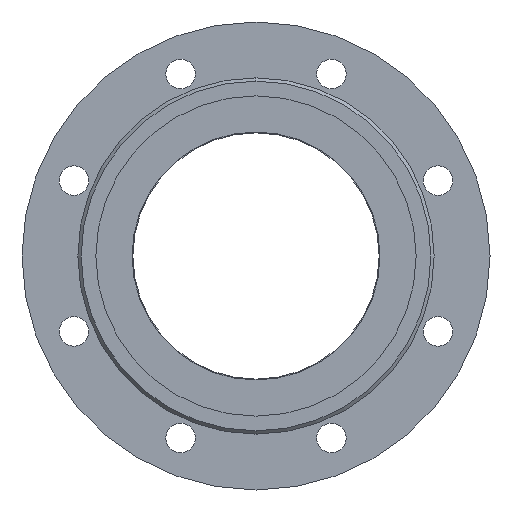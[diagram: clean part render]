
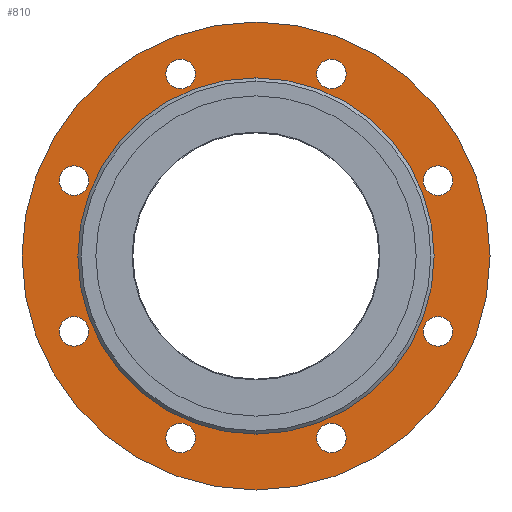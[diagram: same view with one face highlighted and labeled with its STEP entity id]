
A CAD part, left-side view. The second image highlights one B-rep face of the part: STEP entity #810.
In plain terms, the highlighted planar face has unit normal (-1, 0, 0).
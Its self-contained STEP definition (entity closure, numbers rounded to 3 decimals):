
#810=ADVANCED_FACE('',(#1518,#1519,#1520,#1521,#1522,#1523,#1524,#1525,#1526,#1527),#1528,.F.);
#1518=FACE_BOUND('',#2311,.T.);
#1519=FACE_BOUND('',#2312,.T.);
#1520=FACE_BOUND('',#2313,.T.);
#1521=FACE_BOUND('',#2314,.T.);
#1522=FACE_BOUND('',#2315,.T.);
#1523=FACE_BOUND('',#2316,.T.);
#1524=FACE_BOUND('',#2317,.T.);
#1525=FACE_BOUND('',#2318,.T.);
#1526=FACE_BOUND('',#2319,.T.);
#1527=FACE_OUTER_BOUND('',#2320,.T.);
#1528=PLANE('',#2321);
#2311=EDGE_LOOP('',(#3726,#3727));
#2312=EDGE_LOOP('',(#3728,#3729));
#2313=EDGE_LOOP('',(#3730,#3731));
#2314=EDGE_LOOP('',(#3732,#3733));
#2315=EDGE_LOOP('',(#3734,#3735));
#2316=EDGE_LOOP('',(#3736,#3737));
#2317=EDGE_LOOP('',(#3738,#3739));
#2318=EDGE_LOOP('',(#3740,#3741));
#2319=EDGE_LOOP('',(#3742,#3743));
#2320=EDGE_LOOP('',(#3744,#3745));
#2321=AXIS2_PLACEMENT_3D('',#3746,#3747,#3748);
#3726=ORIENTED_EDGE('',*,*,#4747,.T.);
#3727=ORIENTED_EDGE('',*,*,#4671,.T.);
#3728=ORIENTED_EDGE('',*,*,#4772,.T.);
#3729=ORIENTED_EDGE('',*,*,#4276,.T.);
#3730=ORIENTED_EDGE('',*,*,#4773,.T.);
#3731=ORIENTED_EDGE('',*,*,#4511,.T.);
#3732=ORIENTED_EDGE('',*,*,#4774,.T.);
#3733=ORIENTED_EDGE('',*,*,#4440,.T.);
#3734=ORIENTED_EDGE('',*,*,#4775,.T.);
#3735=ORIENTED_EDGE('',*,*,#4562,.T.);
#3736=ORIENTED_EDGE('',*,*,#4776,.T.);
#3737=ORIENTED_EDGE('',*,*,#4578,.T.);
#3738=ORIENTED_EDGE('',*,*,#4571,.T.);
#3739=ORIENTED_EDGE('',*,*,#4600,.T.);
#3740=ORIENTED_EDGE('',*,*,#4649,.T.);
#3741=ORIENTED_EDGE('',*,*,#4241,.T.);
#3742=ORIENTED_EDGE('',*,*,#4777,.T.);
#3743=ORIENTED_EDGE('',*,*,#4249,.T.);
#3744=ORIENTED_EDGE('',*,*,#4281,.F.);
#3745=ORIENTED_EDGE('',*,*,#4462,.F.);
#3746=CARTESIAN_POINT('',(5.0,0.0,0.));
#3747=DIRECTION('',(1.0,0.0,0.));
#3748=DIRECTION('',(0.,0.0,-1.0));
#4241=EDGE_CURVE('',#4937,#4935,#4938,.T.);
#4249=EDGE_CURVE('',#4951,#4949,#4952,.T.);
#4276=EDGE_CURVE('',#5000,#4998,#5001,.T.);
#4281=EDGE_CURVE('',#5006,#5009,#5010,.T.);
#4440=EDGE_CURVE('',#5270,#5268,#5271,.T.);
#4462=EDGE_CURVE('',#5009,#5006,#5305,.T.);
#4511=EDGE_CURVE('',#5377,#5375,#5378,.T.);
#4562=EDGE_CURVE('',#5452,#5450,#5453,.T.);
#4571=EDGE_CURVE('',#5460,#5462,#5464,.T.);
#4578=EDGE_CURVE('',#5472,#5470,#5473,.T.);
#4600=EDGE_CURVE('',#5462,#5460,#5501,.T.);
#4649=EDGE_CURVE('',#4935,#4937,#5566,.T.);
#4671=EDGE_CURVE('',#5593,#5595,#5597,.T.);
#4747=EDGE_CURVE('',#5595,#5593,#5696,.T.);
#4772=EDGE_CURVE('',#4998,#5000,#5722,.T.);
#4773=EDGE_CURVE('',#5375,#5377,#5723,.T.);
#4774=EDGE_CURVE('',#5268,#5270,#5724,.T.);
#4775=EDGE_CURVE('',#5450,#5452,#5725,.T.);
#4776=EDGE_CURVE('',#5470,#5472,#5726,.T.);
#4777=EDGE_CURVE('',#4949,#4951,#5727,.T.);
#4935=VERTEX_POINT('',#5906);
#4937=VERTEX_POINT('',#5909);
#4938=CIRCLE('',#5910,9.0);
#4949=VERTEX_POINT('',#5922);
#4951=VERTEX_POINT('',#5925);
#4952=CIRCLE('',#5926,9.0);
#4998=VERTEX_POINT('',#5977);
#5000=VERTEX_POINT('',#5980);
#5001=CIRCLE('',#5981,9.0);
#5006=VERTEX_POINT('',#5987);
#5009=VERTEX_POINT('',#5991);
#5010=CIRCLE('',#5992,142.5);
#5268=VERTEX_POINT('',#6309);
#5270=VERTEX_POINT('',#6312);
#5271=CIRCLE('',#6313,9.0);
#5305=CIRCLE('',#6360,142.5);
#5375=VERTEX_POINT('',#6453);
#5377=VERTEX_POINT('',#6456);
#5378=CIRCLE('',#6457,9.0);
#5450=VERTEX_POINT('',#6542);
#5452=VERTEX_POINT('',#6545);
#5453=CIRCLE('',#6546,9.0);
#5460=VERTEX_POINT('',#6556);
#5462=VERTEX_POINT('',#6559);
#5464=CIRCLE('',#6562,9.0);
#5470=VERTEX_POINT('',#6570);
#5472=VERTEX_POINT('',#6573);
#5473=CIRCLE('',#6574,9.0);
#5501=CIRCLE('',#6610,9.0);
#5566=CIRCLE('',#6686,9.0);
#5593=VERTEX_POINT('',#6720);
#5595=VERTEX_POINT('',#6723);
#5597=CIRCLE('',#6726,75.0);
#5696=CIRCLE('',#6848,75.0);
#5722=CIRCLE('',#6880,9.0);
#5723=CIRCLE('',#6881,9.0);
#5724=CIRCLE('',#6882,9.0);
#5725=CIRCLE('',#6883,9.0);
#5726=CIRCLE('',#6884,9.0);
#5727=CIRCLE('',#6885,9.0);
#5906=CARTESIAN_POINT('',(5.0,-110.866,-54.922));
#5909=CARTESIAN_POINT('',(5.0,-110.866,-36.922));
#5910=AXIS2_PLACEMENT_3D('',#7066,#7067,#7068);
#5922=CARTESIAN_POINT('',(5.0,-45.922,-119.866));
#5925=CARTESIAN_POINT('',(5.,-45.922,-101.866));
#5926=AXIS2_PLACEMENT_3D('',#7080,#7081,#7082);
#5977=CARTESIAN_POINT('',(5.0,110.866,-54.922));
#5980=CARTESIAN_POINT('',(5.0,110.866,-36.922));
#5981=AXIS2_PLACEMENT_3D('',#7134,#7135,#7136);
#5987=CARTESIAN_POINT('',(5.,0.0,-142.5));
#5991=CARTESIAN_POINT('',(5.,0.,142.5));
#5992=AXIS2_PLACEMENT_3D('',#7142,#7143,#7144);
#6309=CARTESIAN_POINT('',(5.0,-110.866,36.922));
#6312=CARTESIAN_POINT('',(5.0,-110.866,54.922));
#6313=AXIS2_PLACEMENT_3D('',#7379,#7380,#7381);
#6360=AXIS2_PLACEMENT_3D('',#7404,#7405,#7406);
#6453=CARTESIAN_POINT('',(5.0,45.922,-119.866));
#6456=CARTESIAN_POINT('',(5.,45.922,-101.866));
#6457=AXIS2_PLACEMENT_3D('',#7461,#7462,#7463);
#6542=CARTESIAN_POINT('',(5.0,-45.922,101.866));
#6545=CARTESIAN_POINT('',(5.,-45.922,119.866));
#6546=AXIS2_PLACEMENT_3D('',#7553,#7554,#7555);
#6556=CARTESIAN_POINT('',(5.0,45.922,101.866));
#6559=CARTESIAN_POINT('',(5.,45.922,119.866));
#6562=AXIS2_PLACEMENT_3D('',#7561,#7562,#7563);
#6570=CARTESIAN_POINT('',(5.0,110.866,36.922));
#6573=CARTESIAN_POINT('',(5.0,110.866,54.922));
#6574=AXIS2_PLACEMENT_3D('',#7567,#7568,#7569);
#6610=AXIS2_PLACEMENT_3D('',#7593,#7594,#7595);
#6686=AXIS2_PLACEMENT_3D('',#7661,#7662,#7663);
#6720=CARTESIAN_POINT('',(5.0,0.,-75.0));
#6723=CARTESIAN_POINT('',(5.0,0.,75.0));
#6726=AXIS2_PLACEMENT_3D('',#7688,#7689,#7690);
#6848=AXIS2_PLACEMENT_3D('',#7786,#7787,#7788);
#6880=AXIS2_PLACEMENT_3D('',#7807,#7808,#7809);
#6881=AXIS2_PLACEMENT_3D('',#7810,#7811,#7812);
#6882=AXIS2_PLACEMENT_3D('',#7813,#7814,#7815);
#6883=AXIS2_PLACEMENT_3D('',#7816,#7817,#7818);
#6884=AXIS2_PLACEMENT_3D('',#7819,#7820,#7821);
#6885=AXIS2_PLACEMENT_3D('',#7822,#7823,#7824);
#7066=CARTESIAN_POINT('',(5.0,-110.866,-45.922));
#7067=DIRECTION('',(1.0,0.0,0.));
#7068=DIRECTION('',(0.,0.0,-1.0));
#7080=CARTESIAN_POINT('',(5.,-45.922,-110.866));
#7081=DIRECTION('',(1.0,0.0,0.));
#7082=DIRECTION('',(0.,0.0,-1.0));
#7134=CARTESIAN_POINT('',(5.0,110.866,-45.922));
#7135=DIRECTION('',(1.0,0.0,0.));
#7136=DIRECTION('',(0.,0.0,-1.0));
#7142=CARTESIAN_POINT('',(5.0,0.0,0.));
#7143=DIRECTION('',(1.0,0.0,0.));
#7144=DIRECTION('',(0.,0.0,-1.0));
#7379=CARTESIAN_POINT('',(5.0,-110.866,45.922));
#7380=DIRECTION('',(1.0,0.0,0.));
#7381=DIRECTION('',(0.,0.0,-1.0));
#7404=CARTESIAN_POINT('',(5.0,0.0,0.));
#7405=DIRECTION('',(1.0,0.0,0.));
#7406=DIRECTION('',(0.,0.0,-1.0));
#7461=CARTESIAN_POINT('',(5.,45.922,-110.866));
#7462=DIRECTION('',(1.0,0.0,0.));
#7463=DIRECTION('',(0.,0.0,-1.0));
#7553=CARTESIAN_POINT('',(5.,-45.922,110.866));
#7554=DIRECTION('',(1.0,0.0,0.));
#7555=DIRECTION('',(0.,0.0,-1.0));
#7561=CARTESIAN_POINT('',(5.,45.922,110.866));
#7562=DIRECTION('',(1.0,0.0,0.));
#7563=DIRECTION('',(0.,0.0,-1.0));
#7567=CARTESIAN_POINT('',(5.0,110.866,45.922));
#7568=DIRECTION('',(1.0,0.0,0.));
#7569=DIRECTION('',(0.,0.0,-1.0));
#7593=CARTESIAN_POINT('',(5.,45.922,110.866));
#7594=DIRECTION('',(1.0,0.0,0.));
#7595=DIRECTION('',(0.,0.0,-1.0));
#7661=CARTESIAN_POINT('',(5.0,-110.866,-45.922));
#7662=DIRECTION('',(1.0,0.0,0.));
#7663=DIRECTION('',(0.,0.0,-1.0));
#7688=CARTESIAN_POINT('',(5.0,0.0,0.));
#7689=DIRECTION('',(1.0,0.0,0.));
#7690=DIRECTION('',(0.,0.0,-1.0));
#7786=CARTESIAN_POINT('',(5.0,0.0,0.));
#7787=DIRECTION('',(1.0,0.0,0.));
#7788=DIRECTION('',(0.,0.0,-1.0));
#7807=CARTESIAN_POINT('',(5.0,110.866,-45.922));
#7808=DIRECTION('',(1.0,0.0,0.));
#7809=DIRECTION('',(0.,0.0,-1.0));
#7810=CARTESIAN_POINT('',(5.,45.922,-110.866));
#7811=DIRECTION('',(1.0,0.0,0.));
#7812=DIRECTION('',(0.,0.0,-1.0));
#7813=CARTESIAN_POINT('',(5.0,-110.866,45.922));
#7814=DIRECTION('',(1.0,0.0,0.));
#7815=DIRECTION('',(0.,0.0,-1.0));
#7816=CARTESIAN_POINT('',(5.,-45.922,110.866));
#7817=DIRECTION('',(1.0,0.0,0.));
#7818=DIRECTION('',(0.,0.0,-1.0));
#7819=CARTESIAN_POINT('',(5.0,110.866,45.922));
#7820=DIRECTION('',(1.0,0.0,0.));
#7821=DIRECTION('',(0.,0.0,-1.0));
#7822=CARTESIAN_POINT('',(5.,-45.922,-110.866));
#7823=DIRECTION('',(1.0,0.0,0.));
#7824=DIRECTION('',(0.,0.0,-1.0));
